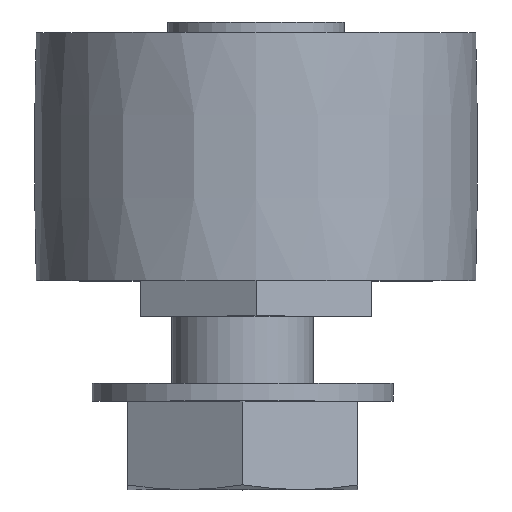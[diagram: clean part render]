
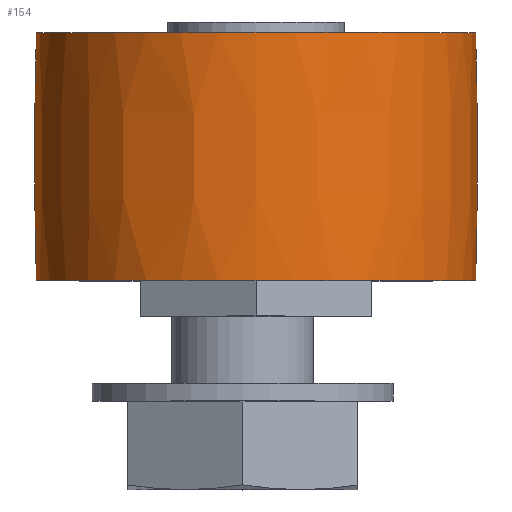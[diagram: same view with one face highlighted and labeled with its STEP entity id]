
A CAD part, top view. The second image highlights one B-rep face of the part: STEP entity #154.
In plain terms, the highlighted free-form (B-spline) face has degree [3, 3] with [4, 7] control points.
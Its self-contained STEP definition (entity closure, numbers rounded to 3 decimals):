
#154 = ADVANCED_FACE( '', ( #233, #234 ), #235, .T. );
#233 = FACE_OUTER_BOUND( '', #340, .T. );
#234 = FACE_OUTER_BOUND( '', #341, .T. );
#235 = ( BOUNDED_SURFACE(  )B_SPLINE_SURFACE( 3, 3, ( ( #344, #345, #346, #347, #348, #349, #350 ), ( #351, #352, #353, #354, #355, #356, #357 ), ( #358, #359, #360, #361, #362, #363, #364 ), ( #365, #366, #367, #368, #369, #370, #371 ) ), .UNSPECIFIED., .F., .T., .F. )B_SPLINE_SURFACE_WITH_KNOTS( ( 4, 4 ), ( 4, 3, 4 ), ( 0., 6.283 ), ( -0.028, 0., 0.028 ), .UNSPECIFIED. )GEOMETRIC_REPRESENTATION_ITEM(  )RATIONAL_B_SPLINE_SURFACE( ( ( 1., 0.333, 0.333, 1., 0.333, 0.333, 1. ), ( 1., 0.333, 0.333, 1., 0.333, 0.333, 1. ), ( 1., 0.333, 0.333, 1., 0.333, 0.333, 1. ), ( 1., 0.333, 0.333, 1., 0.333, 0.333, 1. ) ) )REPRESENTATION_ITEM( '' )SURFACE(  ) );
#340 = EDGE_LOOP( '', ( #587 ) );
#341 = EDGE_LOOP( '', ( #588 ) );
#344 = CARTESIAN_POINT( '', ( 0., 2., -12.402 ) );
#345 = CARTESIAN_POINT( '', ( 24.804, 2., -12.402 ) );
#346 = CARTESIAN_POINT( '', ( 24.804, 2., 12.402 ) );
#347 = CARTESIAN_POINT( '', ( 0., 2., 12.402 ) );
#348 = CARTESIAN_POINT( '', ( -24.804, 2., 12.402 ) );
#349 = CARTESIAN_POINT( '', ( -24.804, 2., -12.402 ) );
#350 = CARTESIAN_POINT( '', ( 0., 2., -12.402 ) );
#351 = CARTESIAN_POINT( '', ( 0., 6.666, -12.533 ) );
#352 = CARTESIAN_POINT( '', ( 25.065, 6.666, -12.533 ) );
#353 = CARTESIAN_POINT( '', ( 25.065, 6.666, 12.533 ) );
#354 = CARTESIAN_POINT( '', ( 0., 6.666, 12.533 ) );
#355 = CARTESIAN_POINT( '', ( -25.065, 6.666, 12.533 ) );
#356 = CARTESIAN_POINT( '', ( -25.065, 6.666, -12.533 ) );
#357 = CARTESIAN_POINT( '', ( 0., 6.666, -12.533 ) );
#358 = CARTESIAN_POINT( '', ( 0., 11.334, -12.533 ) );
#359 = CARTESIAN_POINT( '', ( 25.065, 11.334, -12.533 ) );
#360 = CARTESIAN_POINT( '', ( 25.065, 11.334, 12.533 ) );
#361 = CARTESIAN_POINT( '', ( 0., 11.334, 12.533 ) );
#362 = CARTESIAN_POINT( '', ( -25.065, 11.334, 12.533 ) );
#363 = CARTESIAN_POINT( '', ( -25.065, 11.334, -12.533 ) );
#364 = CARTESIAN_POINT( '', ( 0., 11.334, -12.533 ) );
#365 = CARTESIAN_POINT( '', ( 0., 16., -12.402 ) );
#366 = CARTESIAN_POINT( '', ( 24.804, 16., -12.402 ) );
#367 = CARTESIAN_POINT( '', ( 24.804, 16., 12.402 ) );
#368 = CARTESIAN_POINT( '', ( 0., 16., 12.402 ) );
#369 = CARTESIAN_POINT( '', ( -24.804, 16., 12.402 ) );
#370 = CARTESIAN_POINT( '', ( -24.804, 16., -12.402 ) );
#371 = CARTESIAN_POINT( '', ( 0., 16., -12.402 ) );
#587 = ORIENTED_EDGE( '', *, *, #818, .T. );
#588 = ORIENTED_EDGE( '', *, *, #817, .F. );
#817 = EDGE_CURVE( '', #961, #961, #962, .T. );
#818 = EDGE_CURVE( '', #963, #963, #964, .T. );
#961 = VERTEX_POINT( '', #1197 );
#962 = CIRCLE( '', #1198, 12.402 );
#963 = VERTEX_POINT( '', #1199 );
#964 = CIRCLE( '', #1200, 12.402 );
#1197 = CARTESIAN_POINT( '', ( 0., 2., -12.402 ) );
#1198 = AXIS2_PLACEMENT_3D( '', #1353, #1354, #1355 );
#1199 = CARTESIAN_POINT( '', ( 0., 16., -12.402 ) );
#1200 = AXIS2_PLACEMENT_3D( '', #1356, #1357, #1358 );
#1353 = CARTESIAN_POINT( '', ( 0., 2., 0. ) );
#1354 = DIRECTION( '', ( 0., -1., 0. ) );
#1355 = DIRECTION( '', ( 0., 0., -1. ) );
#1356 = CARTESIAN_POINT( '', ( 0., 16., 0. ) );
#1357 = DIRECTION( '', ( 0., -1., 0. ) );
#1358 = DIRECTION( '', ( 0., 0., -1. ) );
